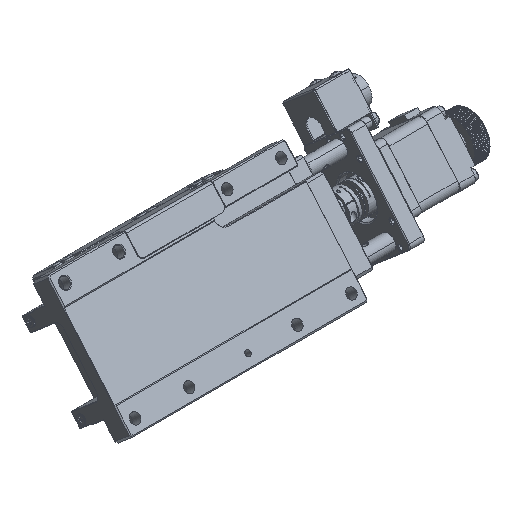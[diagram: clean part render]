
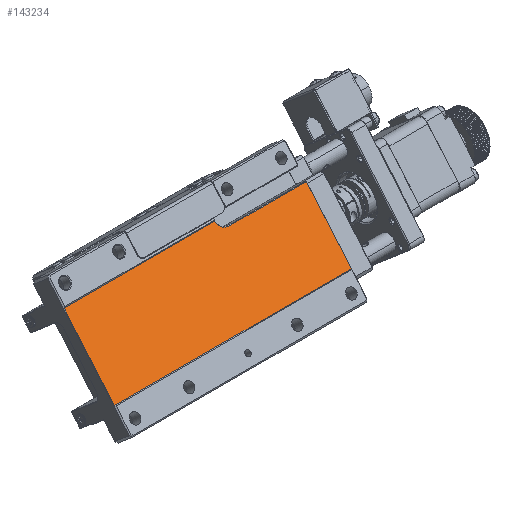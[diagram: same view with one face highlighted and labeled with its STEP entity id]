
A CAD part, isometric view. The second image highlights one B-rep face of the part: STEP entity #143234.
In plain terms, the highlighted planar face has unit normal (0, -0.761, 0.648).
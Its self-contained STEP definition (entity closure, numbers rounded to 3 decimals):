
#2574 = CARTESIAN_POINT ( 'NONE',  ( -1418.232, 242.918, -18.836 ) ) ;
#4868 = VECTOR ( 'NONE', #142755, 1000. ) ;
#7586 = ORIENTED_EDGE ( 'NONE', *, *, #50048, .T. ) ;
#11111 = CIRCLE ( 'NONE', #127059, 4.3 ) ;
#14377 = LINE ( 'NONE', #2574, #4868 ) ;
#18114 = EDGE_LOOP ( 'NONE', ( #150387, #149684, #161964, #7586, #37020, #119480 ) ) ;
#23896 = VERTEX_POINT ( 'NONE', #94049 ) ;
#36361 = CARTESIAN_POINT ( 'NONE',  ( -1418.432, 214.269, -52.493 ) ) ;
#37020 = ORIENTED_EDGE ( 'NONE', *, *, #85127, .F. ) ;
#50048 = EDGE_CURVE ( 'NONE', #23896, #72188, #133898, .T. ) ;
#56733 = LINE ( 'NONE', #94751, #95488 ) ;
#58813 = CARTESIAN_POINT ( 'NONE',  ( -1458.502, 245.381, -15.942 ) ) ;
#60973 = EDGE_CURVE ( 'NONE', #72218, #99743, #11111, .T. ) ;
#66172 = EDGE_CURVE ( 'NONE', #114237, #102371, #152131, .T. ) ;
#66721 = DIRECTION ( 'NONE',  ( 0., -0.648, -0.761 ) ) ;
#69061 = VECTOR ( 'NONE', #139382, 1000. ) ;
#70037 = DIRECTION ( 'NONE',  ( 0., 0.761, -0.648 ) ) ;
#70456 = DIRECTION ( 'NONE',  ( 0., -0.648, -0.761 ) ) ;
#70572 = CARTESIAN_POINT ( 'NONE',  ( -1418.232, 245.381, -15.942 ) ) ;
#70590 = VECTOR ( 'NONE', #122187, 1000. ) ;
#72130 = CARTESIAN_POINT ( 'NONE',  ( -1528.032, 214.269, -52.493 ) ) ;
#72188 = VERTEX_POINT ( 'NONE', #142830 ) ;
#72218 = VERTEX_POINT ( 'NONE', #91253 ) ;
#76468 = DIRECTION ( 'NONE',  ( -1., 0., 0. ) ) ;
#85127 = EDGE_CURVE ( 'NONE', #114237, #72188, #56733, .T. ) ;
#91253 = CARTESIAN_POINT ( 'NONE',  ( -1454.232, 242.918, -18.836 ) ) ;
#94049 = CARTESIAN_POINT ( 'NONE',  ( -1528.032, 245.381, -15.942 ) ) ;
#94751 = CARTESIAN_POINT ( 'NONE',  ( -1418.232, 222.047, -43.356 ) ) ;
#95488 = VECTOR ( 'NONE', #155732, 1000. ) ;
#99743 = VERTEX_POINT ( 'NONE', #58813 ) ;
#102371 = VERTEX_POINT ( 'NONE', #109231 ) ;
#109231 = CARTESIAN_POINT ( 'NONE',  ( -1418.432, 242.918, -18.836 ) ) ;
#114237 = VERTEX_POINT ( 'NONE', #163817 ) ;
#116147 = VECTOR ( 'NONE', #70456, 1000. ) ;
#117014 = EDGE_CURVE ( 'NONE', #99743, #23896, #134866, .T. ) ;
#119480 = ORIENTED_EDGE ( 'NONE', *, *, #66172, .T. ) ;
#122187 = DIRECTION ( 'NONE',  ( -1., 0., 0. ) ) ;
#125538 = FACE_OUTER_BOUND ( 'NONE', #18114, .T. ) ;
#127059 = AXIS2_PLACEMENT_3D ( 'NONE', #134302, #70037, #66721 ) ;
#128050 = PLANE ( 'NONE',  #160096 ) ;
#133898 = LINE ( 'NONE', #72130, #116147 ) ;
#134302 = CARTESIAN_POINT ( 'NONE',  ( -1454.232, 245.705, -15.561 ) ) ;
#134866 = LINE ( 'NONE', #70572, #70590 ) ;
#139053 = CARTESIAN_POINT ( 'NONE',  ( -1418.232, 222.047, -43.356 ) ) ;
#139382 = DIRECTION ( 'NONE',  ( 0., 0.648, 0.761 ) ) ;
#142755 = DIRECTION ( 'NONE',  ( -1., 0., 0. ) ) ;
#142830 = CARTESIAN_POINT ( 'NONE',  ( -1528.032, 222.047, -43.356 ) ) ;
#143234 = ADVANCED_FACE ( 'NONE', ( #125538 ), #128050, .F. ) ;
#149684 = ORIENTED_EDGE ( 'NONE', *, *, #60973, .T. ) ;
#150387 = ORIENTED_EDGE ( 'NONE', *, *, #153159, .T. ) ;
#151792 = DIRECTION ( 'NONE',  ( 0., 0.761, -0.648 ) ) ;
#152131 = LINE ( 'NONE', #36361, #69061 ) ;
#153159 = EDGE_CURVE ( 'NONE', #102371, #72218, #14377, .T. ) ;
#155732 = DIRECTION ( 'NONE',  ( -1., 0., 0. ) ) ;
#160096 = AXIS2_PLACEMENT_3D ( 'NONE', #139053, #151792, #76468 ) ;
#161964 = ORIENTED_EDGE ( 'NONE', *, *, #117014, .T. ) ;
#163817 = CARTESIAN_POINT ( 'NONE',  ( -1418.432, 222.047, -43.356 ) ) ;
